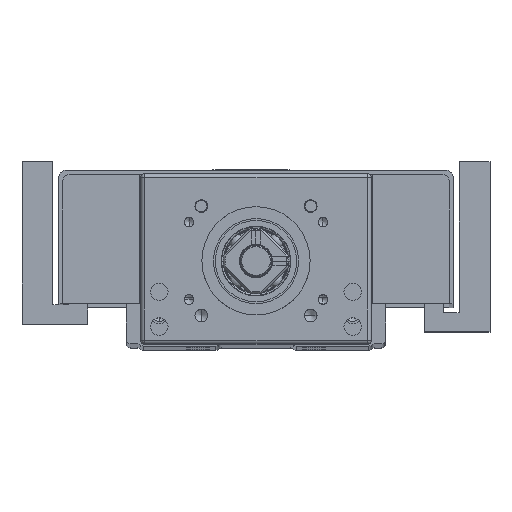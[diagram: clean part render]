
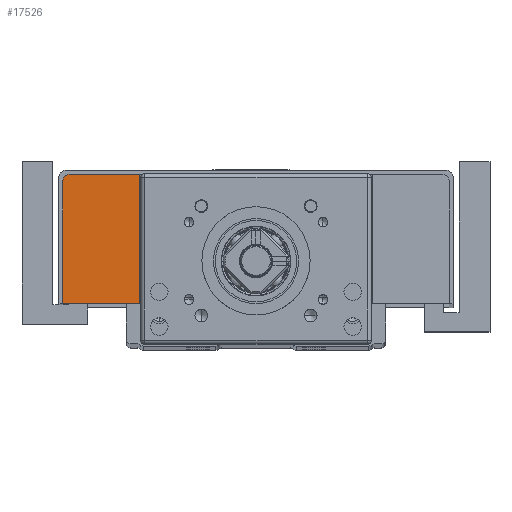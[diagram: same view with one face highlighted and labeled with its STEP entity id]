
A CAD part, top view. The second image highlights one B-rep face of the part: STEP entity #17526.
In plain terms, the highlighted planar face has unit normal (0, 0, 1).
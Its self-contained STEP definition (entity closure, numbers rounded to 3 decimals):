
#210 = FACE_OUTER_BOUND ( 'NONE', #32384, .T. ) ;
#4621 = CARTESIAN_POINT ( 'NONE',  ( -30., 11., 10. ) ) ;
#6165 = ORIENTED_EDGE ( 'NONE', *, *, #42216, .F. ) ;
#6718 = EDGE_CURVE ( 'NONE', #57023, #37305, #53898, .T. ) ;
#10320 = DIRECTION ( 'NONE',  ( -1., 0., 0. ) ) ;
#10376 = ORIENTED_EDGE ( 'NONE', *, *, #6718, .F. ) ;
#10397 = DIRECTION ( 'NONE',  ( 0., 0., -1. ) ) ;
#10612 = ORIENTED_EDGE ( 'NONE', *, *, #61120, .F. ) ;
#10932 = CARTESIAN_POINT ( 'NONE',  ( -19.8, 0.5, 10. ) ) ;
#11043 = VERTEX_POINT ( 'NONE', #4621 ) ;
#11710 = CARTESIAN_POINT ( 'NONE',  ( -50., 0.5, 10. ) ) ;
#13081 = PLANE ( 'NONE',  #19855 ) ;
#14091 = CARTESIAN_POINT ( 'NONE',  ( -19.8, 11., 10. ) ) ;
#14097 = CARTESIAN_POINT ( 'NONE',  ( -30., 0.5, 10. ) ) ;
#14455 = LINE ( 'NONE', #14091, #22784 ) ;
#15957 = CARTESIAN_POINT ( 'NONE',  ( -48., 44.5, 10. ) ) ;
#16560 = LINE ( 'NONE', #14097, #40700 ) ;
#17526 = ADVANCED_FACE ( 'NONE', ( #210 ), #13081, .F. ) ;
#19855 = AXIS2_PLACEMENT_3D ( 'NONE', #10932, #10397, #10320 ) ;
#19868 = CARTESIAN_POINT ( 'NONE',  ( -19.8, 44.5, 10. ) ) ;
#19891 = VECTOR ( 'NONE', #34394, 1000. ) ;
#22784 = VECTOR ( 'NONE', #42972, 1000. ) ;
#22925 = CARTESIAN_POINT ( 'NONE',  ( -30., 44.5, 10. ) ) ;
#28313 = ORIENTED_EDGE ( 'NONE', *, *, #32497, .F. ) ;
#32384 = EDGE_LOOP ( 'NONE', ( #59205, #10376, #6165, #10612, #28313 ) ) ;
#32497 = EDGE_CURVE ( 'NONE', #46533, #11043, #16560, .T. ) ;
#32685 = LINE ( 'NONE', #19868, #19891 ) ;
#32916 = CARTESIAN_POINT ( 'NONE',  ( -50., 11., 10. ) ) ;
#34394 = DIRECTION ( 'NONE',  ( 1., 0., 0. ) ) ;
#34769 = VECTOR ( 'NONE', #36112, 1000. ) ;
#36112 = DIRECTION ( 'NONE',  ( 0., 1., 0. ) ) ;
#37305 = VERTEX_POINT ( 'NONE', #15957 ) ;
#40700 = VECTOR ( 'NONE', #47841, 1000. ) ;
#42216 = EDGE_CURVE ( 'NONE', #52183, #57023, #49111, .T. ) ;
#42972 = DIRECTION ( 'NONE',  ( -1., 0., 0. ) ) ;
#44899 = CARTESIAN_POINT ( 'NONE',  ( -50., 42.5, 10. ) ) ;
#46483 = CARTESIAN_POINT ( 'NONE',  ( -48., 42.5, 10. ) ) ;
#46533 = VERTEX_POINT ( 'NONE', #22925 ) ;
#47841 = DIRECTION ( 'NONE',  ( 0., -1., 0. ) ) ;
#49111 = LINE ( 'NONE', #11710, #34769 ) ;
#52183 = VERTEX_POINT ( 'NONE', #32916 ) ;
#53898 = CIRCLE ( 'NONE', #56303, 2. ) ;
#56303 = AXIS2_PLACEMENT_3D ( 'NONE', #46483, #58577, #62133 ) ;
#57023 = VERTEX_POINT ( 'NONE', #44899 ) ;
#58171 = EDGE_CURVE ( 'NONE', #37305, #46533, #32685, .T. ) ;
#58577 = DIRECTION ( 'NONE',  ( 0., 0., -1. ) ) ;
#59205 = ORIENTED_EDGE ( 'NONE', *, *, #58171, .F. ) ;
#61120 = EDGE_CURVE ( 'NONE', #11043, #52183, #14455, .T. ) ;
#62133 = DIRECTION ( 'NONE',  ( 0., -1., 0. ) ) ;
